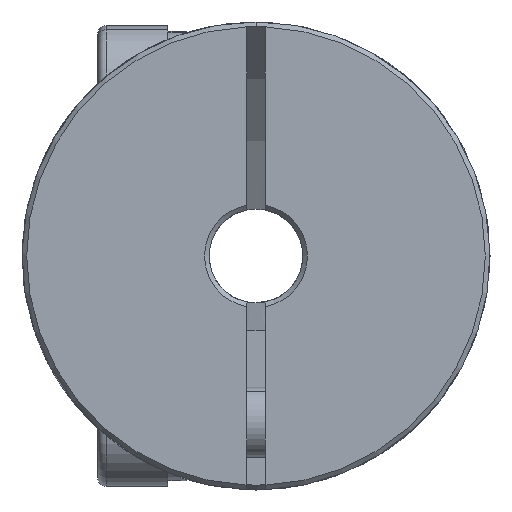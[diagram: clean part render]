
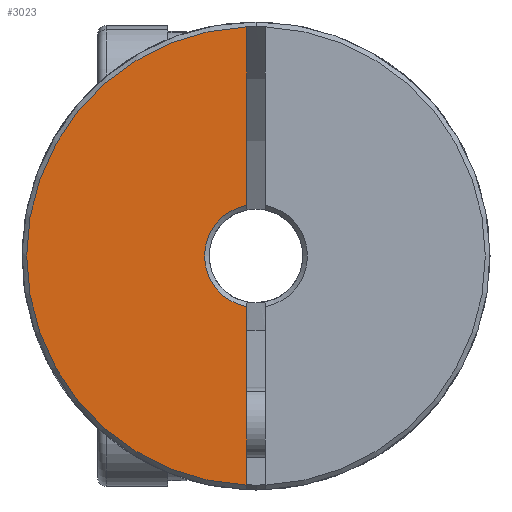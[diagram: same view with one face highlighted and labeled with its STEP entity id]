
A CAD part, front view. The second image highlights one B-rep face of the part: STEP entity #3023.
In plain terms, the highlighted planar face has unit normal (0, -1, 0).
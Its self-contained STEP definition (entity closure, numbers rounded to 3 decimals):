
#244 = LINE ( 'NONE', #4771, #6681 ) ;
#464 = EDGE_CURVE ( 'NONE', #5381, #2329, #5549, .T. ) ;
#941 = VERTEX_POINT ( 'NONE', #5442 ) ;
#1157 = ORIENTED_EDGE ( 'NONE', *, *, #4288, .F. ) ;
#1229 = EDGE_LOOP ( 'NONE', ( #4934, #3470, #1157, #6286 ) ) ;
#1334 = CARTESIAN_POINT ( 'NONE',  ( 0., -17.5, 0. ) ) ;
#1408 = AXIS2_PLACEMENT_3D ( 'NONE', #1334, #4222, #3027 ) ;
#1729 = PLANE ( 'NONE',  #6243 ) ;
#1762 = CARTESIAN_POINT ( 'NONE',  ( -0.4, -17.5, -9.792 ) ) ;
#2329 = VERTEX_POINT ( 'NONE', #3527 ) ;
#2792 = DIRECTION ( 'NONE',  ( 0., 0., 1. ) ) ;
#3023 = ADVANCED_FACE ( 'NONE', ( #6521 ), #1729, .F. ) ;
#3027 = DIRECTION ( 'NONE',  ( 0., 0., 1. ) ) ;
#3236 = CARTESIAN_POINT ( 'NONE',  ( -0.4, -17.5, 9.792 ) ) ;
#3470 = ORIENTED_EDGE ( 'NONE', *, *, #5689, .T. ) ;
#3527 = CARTESIAN_POINT ( 'NONE',  ( -0.4, -17.5, 2.163 ) ) ;
#3621 = CARTESIAN_POINT ( 'NONE',  ( -0.4, -17.5, 0. ) ) ;
#3992 = DIRECTION ( 'NONE',  ( 0., 1., 0. ) ) ;
#4004 = VECTOR ( 'NONE', #5447, 1000. ) ;
#4222 = DIRECTION ( 'NONE',  ( 0., -1., 0. ) ) ;
#4259 = DIRECTION ( 'NONE',  ( 0., 0., -1. ) ) ;
#4288 = EDGE_CURVE ( 'NONE', #941, #6096, #244, .T. ) ;
#4480 = AXIS2_PLACEMENT_3D ( 'NONE', #4610, #3992, #6313 ) ;
#4610 = CARTESIAN_POINT ( 'NONE',  ( 0., -17.5, 0. ) ) ;
#4617 = CIRCLE ( 'NONE', #1408, 9.8 ) ;
#4771 = CARTESIAN_POINT ( 'NONE',  ( -0.4, -17.5, 0. ) ) ;
#4911 = CIRCLE ( 'NONE', #4480, 2.2 ) ;
#4934 = ORIENTED_EDGE ( 'NONE', *, *, #464, .F. ) ;
#5212 = CARTESIAN_POINT ( 'NONE',  ( 0., -17.5, 0. ) ) ;
#5381 = VERTEX_POINT ( 'NONE', #3236 ) ;
#5442 = CARTESIAN_POINT ( 'NONE',  ( -0.4, -17.5, -2.163 ) ) ;
#5447 = DIRECTION ( 'NONE',  ( 0., 0., -1. ) ) ;
#5549 = LINE ( 'NONE', #3621, #4004 ) ;
#5689 = EDGE_CURVE ( 'NONE', #5381, #6096, #4617, .T. ) ;
#5692 = DIRECTION ( 'NONE',  ( 0., 1., 0. ) ) ;
#6024 = EDGE_CURVE ( 'NONE', #941, #2329, #4911, .T. ) ;
#6096 = VERTEX_POINT ( 'NONE', #1762 ) ;
#6243 = AXIS2_PLACEMENT_3D ( 'NONE', #5212, #5692, #2792 ) ;
#6286 = ORIENTED_EDGE ( 'NONE', *, *, #6024, .T. ) ;
#6313 = DIRECTION ( 'NONE',  ( 0., 0., 1. ) ) ;
#6521 = FACE_OUTER_BOUND ( 'NONE', #1229, .T. ) ;
#6681 = VECTOR ( 'NONE', #4259, 1000. ) ;
